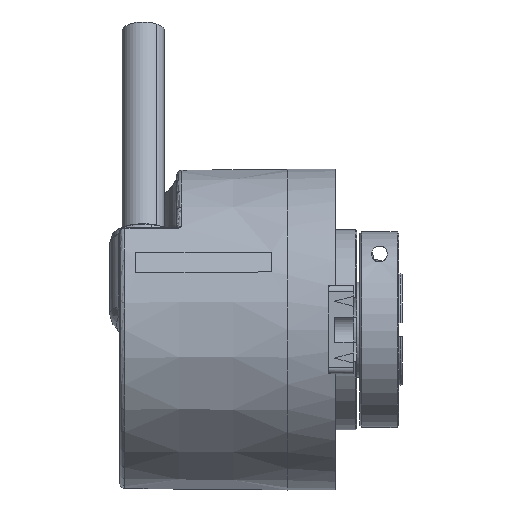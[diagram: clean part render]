
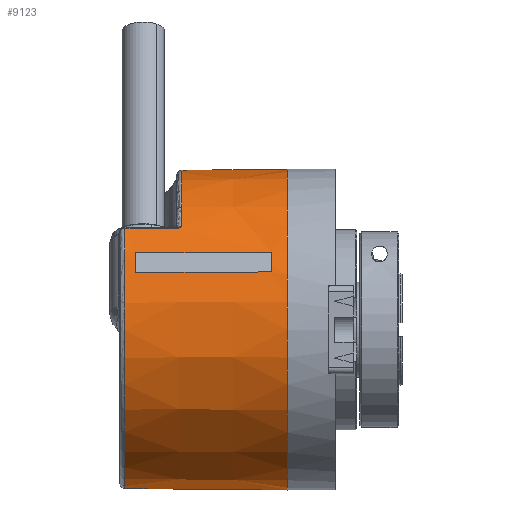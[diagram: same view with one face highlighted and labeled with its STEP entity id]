
A CAD part, front view. The second image highlights one B-rep face of the part: STEP entity #9123.
In plain terms, the highlighted conical face has half-angle 0.5 degrees and reference radius 25.4 mm.
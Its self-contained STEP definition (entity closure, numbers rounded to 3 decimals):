
#4722 = CARTESIAN_POINT ( 'NONE',  ( 5.5, 0., 25.4 ) ) ;
#4723 = DIRECTION ( 'NONE',  ( 1., 0., 0.009 ) ) ;
#4724 = VECTOR ( 'NONE', #4723, 1000. ) ;
#4725 = CARTESIAN_POINT ( 'NONE',  ( 5.5, 0., 25.4 ) ) ;
#4726 = LINE ( 'NONE', #4725, #4724 ) ;
#4727 = CARTESIAN_POINT ( 'NONE',  ( -11.207, -19.272, 16.321 ) ) ;
#4728 = CARTESIAN_POINT ( 'NONE',  ( -11.207, 0., 25.254 ) ) ;
#4729 = DIRECTION ( 'NONE',  ( 0., 0., 1. ) ) ;
#4730 = DIRECTION ( 'NONE',  ( 1., 0., 0. ) ) ;
#4731 = CARTESIAN_POINT ( 'NONE',  ( -11.207, 0., 0. ) ) ;
#4732 = AXIS2_PLACEMENT_3D ( 'NONE', #4731, #4730, #4729 ) ;
#4733 = CIRCLE ( 'NONE', #4732, 25.254 ) ;
#4832 = CARTESIAN_POINT ( 'NONE',  ( 3., -23.674, 9.144 ) ) ;
#4833 = CARTESIAN_POINT ( 'NONE',  ( -3.271, -23.623, 9.123 ) ) ;
#4834 = CARTESIAN_POINT ( 'NONE',  ( -9.541, -23.573, 9.101 ) ) ;
#4835 = CARTESIAN_POINT ( 'NONE',  ( -15.812, -23.522, 9.08 ) ) ;
#4836 = CARTESIAN_POINT ( 'NONE',  ( -16.708, -23.515, 9.077 ) ) ;
#4837 = CARTESIAN_POINT ( 'NONE',  ( -17.604, -23.508, 9.074 ) ) ;
#4838 = CARTESIAN_POINT ( 'NONE',  ( -18.5, -23.501, 9.071 ) ) ;
#4844 = B_SPLINE_CURVE_WITH_KNOTS ( 'NONE', 3,
 ( #4838, #4837, #4836, #4835, #4834, #4833, #4832 ),
 .UNSPECIFIED., .F., .F.,
 ( 4, 3, 4 ),
 ( 0.019, 0.022, 0.041 ),
 .UNSPECIFIED. ) ;
#4887 = CARTESIAN_POINT ( 'NONE',  ( -20.207, -19.395, 16.051 ) ) ;
#4888 = CARTESIAN_POINT ( 'NONE',  ( -18.111, -19.412, 16.059 ) ) ;
#4889 = CARTESIAN_POINT ( 'NONE',  ( -16.015, -19.43, 16.067 ) ) ;
#4890 = CARTESIAN_POINT ( 'NONE',  ( -13.918, -19.447, 16.075 ) ) ;
#4891 = CARTESIAN_POINT ( 'NONE',  ( -13.385, -19.451, 16.077 ) ) ;
#4892 = CARTESIAN_POINT ( 'NONE',  ( -12.852, -19.455, 16.079 ) ) ;
#4893 = CARTESIAN_POINT ( 'NONE',  ( -12.318, -19.46, 16.081 ) ) ;
#4894 = CARTESIAN_POINT ( 'NONE',  ( -12.185, -19.461, 16.082 ) ) ;
#4895 = CARTESIAN_POINT ( 'NONE',  ( -12.052, -19.462, 16.082 ) ) ;
#4896 = CARTESIAN_POINT ( 'NONE',  ( -11.918, -19.463, 16.083 ) ) ;
#4901 = B_SPLINE_CURVE_WITH_KNOTS ( 'NONE', 3,
 ( #4896, #4895, #4894, #4893, #4892, #4891, #4890, #4889, #4888, #4887 ),
 .UNSPECIFIED., .F., .F.,
 ( 4, 3, 3, 4 ),
 ( 0., 0., 0.002, 0.008 ),
 .UNSPECIFIED. ) ;
#5005 = CARTESIAN_POINT ( 'NONE',  ( -20.207, 0., -25.176 ) ) ;
#8261 = EDGE_CURVE ( 'NONE', #8262, #8263, #4733, .T. ) ;
#8262 = VERTEX_POINT ( 'NONE', #4728 ) ;
#8263 = VERTEX_POINT ( 'NONE', #4727 ) ;
#8265 = EDGE_CURVE ( 'NONE', #8262, #8266, #4726, .T. ) ;
#8266 = VERTEX_POINT ( 'NONE', #4722 ) ;
#8291 = EDGE_CURVE ( 'NONE', #9301, #9196, #4844, .T. ) ;
#8294 = ORIENTED_EDGE ( 'NONE', *, *, #9135, .F. ) ;
#8295 = ORIENTED_EDGE ( 'NONE', *, *, #9194, .F. ) ;
#8303 = ORIENTED_EDGE ( 'NONE', *, *, #8291, .F. ) ;
#8304 = ORIENTED_EDGE ( 'NONE', *, *, #9081, .T. ) ;
#8324 = ORIENTED_EDGE ( 'NONE', *, *, #8325, .T. ) ;
#8325 = EDGE_CURVE ( 'NONE', #9192, #8480, #4901, .T. ) ;
#8394 = VERTEX_POINT ( 'NONE', #5005 ) ;
#8415 = ORIENTED_EDGE ( 'NONE', *, *, #8568, .T. ) ;
#8416 = ORIENTED_EDGE ( 'NONE', *, *, #8547, .F. ) ;
#8417 = EDGE_LOOP ( 'NONE', ( #8303, #8304, #8294, #8295 ) ) ;
#8479 = EDGE_CURVE ( 'NONE', #8480, #8394, #8832, .T. ) ;
#8480 = VERTEX_POINT ( 'NONE', #8833 ) ;
#8547 = EDGE_CURVE ( 'NONE', #8266, #8566, #9900, .T. ) ;
#8566 = VERTEX_POINT ( 'NONE', #9923 ) ;
#8568 = EDGE_CURVE ( 'NONE', #8394, #8566, #9922, .T. ) ;
#8828 = DIRECTION ( 'NONE',  ( 0., 0., -1. ) ) ;
#8829 = DIRECTION ( 'NONE',  ( 1., 0., 0. ) ) ;
#8830 = CARTESIAN_POINT ( 'NONE',  ( -20.207, 0., 0. ) ) ;
#8831 = AXIS2_PLACEMENT_3D ( 'NONE', #8830, #8829, #8828 ) ;
#8832 = CIRCLE ( 'NONE', #8831, 25.176 ) ;
#8833 = CARTESIAN_POINT ( 'NONE',  ( -20.207, -19.395, 16.051 ) ) ;
#9081 = EDGE_CURVE ( 'NONE', #9301, #9193, #10336, .T. ) ;
#9123 = ADVANCED_FACE ( 'NONE', ( #10405, #10404 ), #10438, .T. ) ;
#9130 = EDGE_LOOP ( 'NONE', ( #9131, #9188, #9189, #8324, #9136, #8415, #8416 ) ) ;
#9131 = ORIENTED_EDGE ( 'NONE', *, *, #8265, .F. ) ;
#9132 = VERTEX_POINT ( 'NONE', #10429 ) ;
#9135 = EDGE_CURVE ( 'NONE', #9132, #9193, #10428, .T. ) ;
#9136 = ORIENTED_EDGE ( 'NONE', *, *, #8479, .T. ) ;
#9188 = ORIENTED_EDGE ( 'NONE', *, *, #8261, .T. ) ;
#9189 = ORIENTED_EDGE ( 'NONE', *, *, #9191, .T. ) ;
#9191 = EDGE_CURVE ( 'NONE', #8263, #9192, #10960, .T. ) ;
#9192 = VERTEX_POINT ( 'NONE', #10959 ) ;
#9193 = VERTEX_POINT ( 'NONE', #10958 ) ;
#9194 = EDGE_CURVE ( 'NONE', #9196, #9132, #10919, .T. ) ;
#9196 = VERTEX_POINT ( 'NONE', #10920 ) ;
#9301 = VERTEX_POINT ( 'NONE', #11675 ) ;
#9896 = DIRECTION ( 'NONE',  ( 0., 0., -1. ) ) ;
#9897 = DIRECTION ( 'NONE',  ( 1., 0., 0. ) ) ;
#9898 = CARTESIAN_POINT ( 'NONE',  ( 5.5, 0., 0. ) ) ;
#9899 = AXIS2_PLACEMENT_3D ( 'NONE', #9898, #9897, #9896 ) ;
#9900 = CIRCLE ( 'NONE', #9899, 25.4 ) ;
#9919 = DIRECTION ( 'NONE',  ( 1., 0., -0.009 ) ) ;
#9920 = VECTOR ( 'NONE', #9919, 1000. ) ;
#9921 = CARTESIAN_POINT ( 'NONE',  ( 5.5, 0., -25.4 ) ) ;
#9922 = LINE ( 'NONE', #9921, #9920 ) ;
#9923 = CARTESIAN_POINT ( 'NONE',  ( 5.5, 0., -25.4 ) ) ;
#10332 = DIRECTION ( 'NONE',  ( 0., 0., -1. ) ) ;
#10333 = DIRECTION ( 'NONE',  ( -1., 0., 0. ) ) ;
#10334 = CARTESIAN_POINT ( 'NONE',  ( -18.5, 0., 0. ) ) ;
#10335 = AXIS2_PLACEMENT_3D ( 'NONE', #10334, #10333, #10332 ) ;
#10336 = CIRCLE ( 'NONE', #10335, 25.191 ) ;
#10404 = FACE_BOUND ( 'NONE', #8417, .T. ) ;
#10405 = FACE_OUTER_BOUND ( 'NONE', #9130, .T. ) ;
#10421 = CARTESIAN_POINT ( 'NONE',  ( -18.5, -22.055, 12.172 ) ) ;
#10422 = CARTESIAN_POINT ( 'NONE',  ( -17.603, -22.061, 12.176 ) ) ;
#10423 = CARTESIAN_POINT ( 'NONE',  ( -16.707, -22.068, 12.179 ) ) ;
#10424 = CARTESIAN_POINT ( 'NONE',  ( -15.81, -22.075, 12.183 ) ) ;
#10425 = CARTESIAN_POINT ( 'NONE',  ( -9.54, -22.124, 12.208 ) ) ;
#10426 = CARTESIAN_POINT ( 'NONE',  ( -3.27, -22.173, 12.232 ) ) ;
#10427 = CARTESIAN_POINT ( 'NONE',  ( 3., -22.222, 12.257 ) ) ;
#10428 = B_SPLINE_CURVE_WITH_KNOTS ( 'NONE', 3,
 ( #10427, #10426, #10425, #10424, #10423, #10422, #10421 ),
 .UNSPECIFIED., .F., .F.,
 ( 4, 3, 4 ),
 ( 0.003, 0.022, 0.025 ),
 .UNSPECIFIED. ) ;
#10429 = CARTESIAN_POINT ( 'NONE',  ( 3., -22.222, 12.257 ) ) ;
#10434 = DIRECTION ( 'NONE',  ( 0., 0., -1. ) ) ;
#10435 = DIRECTION ( 'NONE',  ( 1., 0., 0. ) ) ;
#10436 = CARTESIAN_POINT ( 'NONE',  ( 5.5, 0., 0. ) ) ;
#10437 = AXIS2_PLACEMENT_3D ( 'NONE', #10436, #10435, #10434 ) ;
#10438 = CONICAL_SURFACE ( 'NONE', #10437, 25.4, 0.009 ) ;
#10915 = DIRECTION ( 'NONE',  ( 0., 0., -1. ) ) ;
#10916 = DIRECTION ( 'NONE',  ( -1., 0., 0. ) ) ;
#10917 = CARTESIAN_POINT ( 'NONE',  ( 3., 0., 0. ) ) ;
#10918 = AXIS2_PLACEMENT_3D ( 'NONE', #10917, #10916, #10915 ) ;
#10919 = CIRCLE ( 'NONE', #10918, 25.378 ) ;
#10920 = CARTESIAN_POINT ( 'NONE',  ( 3., -23.674, 9.144 ) ) ;
#10921 = CARTESIAN_POINT ( 'NONE',  ( -11.918, -19.463, 16.083 ) ) ;
#10922 = CARTESIAN_POINT ( 'NONE',  ( -11.785, -19.464, 16.083 ) ) ;
#10923 = CARTESIAN_POINT ( 'NONE',  ( -11.656, -19.442, 16.111 ) ) ;
#10924 = CARTESIAN_POINT ( 'NONE',  ( -11.418, -19.373, 16.198 ) ) ;
#10956 = CARTESIAN_POINT ( 'NONE',  ( -11.31, -19.325, 16.257 ) ) ;
#10957 = CARTESIAN_POINT ( 'NONE',  ( -11.207, -19.272, 16.321 ) ) ;
#10958 = CARTESIAN_POINT ( 'NONE',  ( -18.5, -22.055, 12.172 ) ) ;
#10959 = CARTESIAN_POINT ( 'NONE',  ( -11.918, -19.463, 16.083 ) ) ;
#10960 = B_SPLINE_CURVE_WITH_KNOTS ( 'NONE', 3,
 ( #10957, #10956, #10924, #10923, #10922, #10921 ),
 .UNSPECIFIED., .F., .F.,
 ( 4, 2, 4 ),
 ( 0., 0., 0.001 ),
 .UNSPECIFIED. ) ;
#11675 = CARTESIAN_POINT ( 'NONE',  ( -18.5, -23.501, 9.071 ) ) ;
